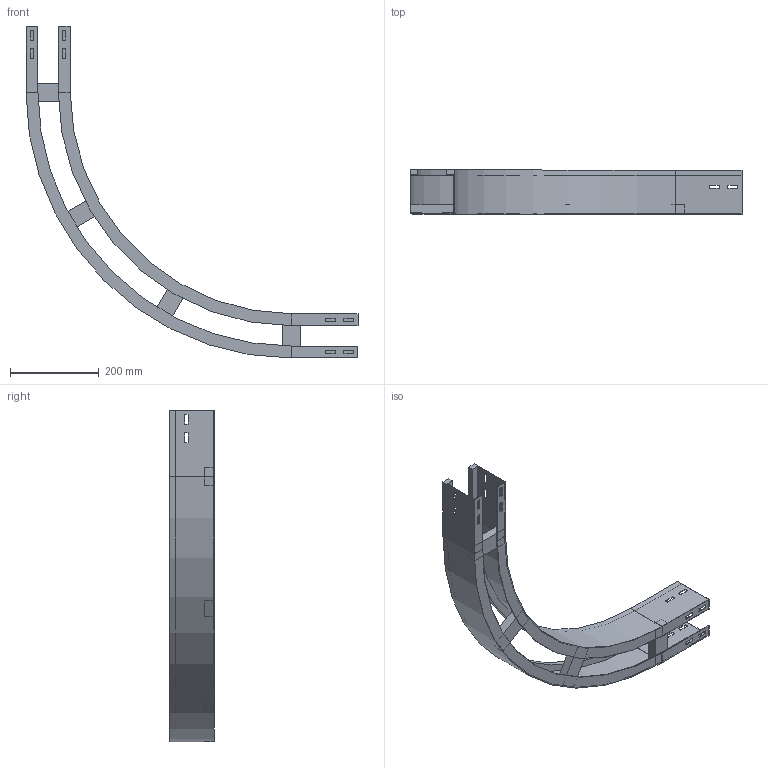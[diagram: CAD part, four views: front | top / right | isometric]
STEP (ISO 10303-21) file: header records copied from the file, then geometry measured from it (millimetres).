
FILE_DESCRIPTION (( 'STEP AP214' ), '1' );
FILE_NAME ('10B5D100.step', '2025-02-21T15:22:09', ( '' ), ( '' ), 'SwSTEP 2.0', 'SolidWorks 2023', '' );
FILE_SCHEMA (( 'AUTOMOTIVE_DESIGN' ));
Length unit declared in the file: millimetre
Products named in the file (4): A2_LONGH.ESTERNO 90°_H100_R500+100; 10B5D100; TRAVERSINO_100; A2_LONGH.INTERNO 90°_H100_R500
Assembly tree (6 placements, depth 2):
  10B5D100
    A2_LONGH.INTERNO 90°_H100_R500
    A2_LONGH.ESTERNO 90°_H100_R500+100
    TRAVERSINO_100  x4
Bounding box: 750 x 100 x 750 mm (x, y, z)
Volume: 1335033.2 mm3; surface area: 717412.5 mm2
Topology: 6 solids, 6 shells, 140 faces, 352 edges, 224 vertices
Faces by surface type: plane 132, cylinder 8
Entity records: 3829 total; most frequent: CARTESIAN_POINT 647, ORIENTED_EDGE 632, DIRECTION 594, EDGE_CURVE 316, LINE 300, VECTOR 300, VERTEX_POINT 200, EDGE_LOOP 154
